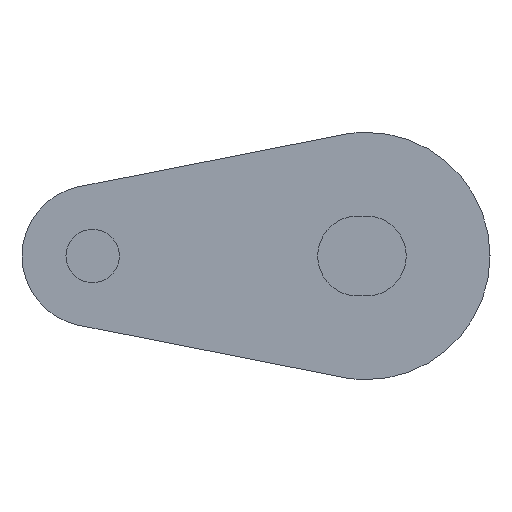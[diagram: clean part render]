
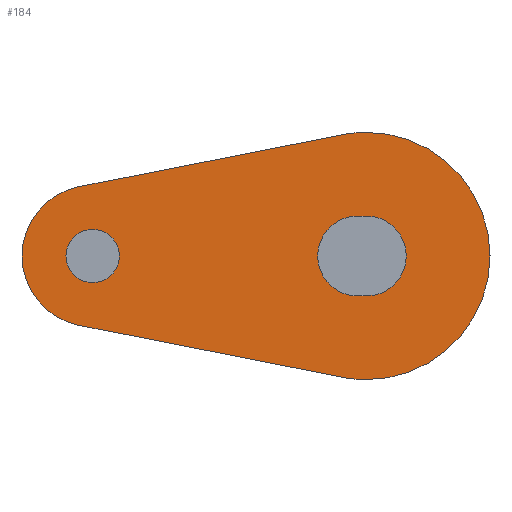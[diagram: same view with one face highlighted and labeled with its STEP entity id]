
A CAD part, left-side view. The second image highlights one B-rep face of the part: STEP entity #184.
In plain terms, the highlighted planar face has unit normal (-1, 0, 0).
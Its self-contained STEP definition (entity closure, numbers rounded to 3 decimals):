
#13 = AXIS2_PLACEMENT_3D ( 'NONE', #566, #562, #557 ) ;
#22 = AXIS2_PLACEMENT_3D ( 'NONE', #554, #544, #545 ) ;
#49 = AXIS2_PLACEMENT_3D ( 'NONE', #580, #578, #573 ) ;
#50 = AXIS2_PLACEMENT_3D ( 'NONE', #548, #537, #538 ) ;
#54 = AXIS2_PLACEMENT_3D ( 'NONE', #584, #585, #579 ) ;
#57 = EDGE_CURVE ( 'NONE', #435, #407, #257, .T. ) ;
#67 = AXIS2_PLACEMENT_3D ( 'NONE', #501, #454, #455 ) ;
#75 = EDGE_CURVE ( 'NONE', #436, #435, #243, .T. ) ;
#78 = EDGE_CURVE ( 'NONE', #446, #428, #237, .T. ) ;
#90 = EDGE_CURVE ( 'NONE', #423, #436, #224, .T. ) ;
#94 = AXIS2_PLACEMENT_3D ( 'NONE', #681, #680, #679 ) ;
#96 = EDGE_CURVE ( 'NONE', #407, #423, #227, .T. ) ;
#112 = EDGE_CURVE ( 'NONE', #420, #492, #951, .T. ) ;
#123 = EDGE_CURVE ( 'NONE', #492, #420, #995, .T. ) ;
#138 = AXIS2_PLACEMENT_3D ( 'NONE', #388, #430, #431 ) ;
#141 = EDGE_CURVE ( 'NONE', #387, #446, #969, .T. ) ;
#146 = EDGE_CURVE ( 'NONE', #447, #391, #968, .T. ) ;
#152 = EDGE_CURVE ( 'NONE', #424, #387, #1061, .T. ) ;
#155 = EDGE_CURVE ( 'NONE', #391, #424, #1060, .T. ) ;
#157 = EDGE_CURVE ( 'NONE', #428, #447, #1054, .T. ) ;
#162 = AXIS2_PLACEMENT_3D ( 'NONE', #466, #459, #460 ) ;
#184 = ADVANCED_FACE ( 'NONE', ( #1011, #1007, #1005 ), #685, .T. ) ;
#223 = VECTOR ( 'NONE', #526, 1000. ) ;
#224 = CIRCLE ( 'NONE', #162, 2.26 ) ;
#227 = LINE ( 'NONE', #525, #223 ) ;
#237 = CIRCLE ( 'NONE', #67, 7. ) ;
#243 = LINE ( 'NONE', #489, #248 ) ;
#248 = VECTOR ( 'NONE', #510, 1000. ) ;
#257 = CIRCLE ( 'NONE', #138, 2.26 ) ;
#304 = EDGE_LOOP ( 'NONE', ( #842, #897, #886, #888, #898, #891 ) ) ;
#305 = EDGE_LOOP ( 'NONE', ( #894, #893 ) ) ;
#306 = EDGE_LOOP ( 'NONE', ( #943, #941, #939, #895 ) ) ;
#387 = VERTEX_POINT ( 'NONE', #751 ) ;
#388 = CARTESIAN_POINT ( 'NONE',  ( -304.5, 0.5, 0. ) ) ;
#391 = VERTEX_POINT ( 'NONE', #820 ) ;
#407 = VERTEX_POINT ( 'NONE', #805 ) ;
#420 = VERTEX_POINT ( 'NONE', #811 ) ;
#423 = VERTEX_POINT ( 'NONE', #798 ) ;
#424 = VERTEX_POINT ( 'NONE', #799 ) ;
#428 = VERTEX_POINT ( 'NONE', #803 ) ;
#430 = DIRECTION ( 'NONE',  ( 1., 0., 0. ) ) ;
#431 = DIRECTION ( 'NONE',  ( 0., 0., -1. ) ) ;
#435 = VERTEX_POINT ( 'NONE', #796 ) ;
#436 = VERTEX_POINT ( 'NONE', #797 ) ;
#446 = VERTEX_POINT ( 'NONE', #791 ) ;
#447 = VERTEX_POINT ( 'NONE', #792 ) ;
#454 = DIRECTION ( 'NONE',  ( 1., 0., 0. ) ) ;
#455 = DIRECTION ( 'NONE',  ( 0., 0., -1. ) ) ;
#459 = DIRECTION ( 'NONE',  ( 1., 0., 0. ) ) ;
#460 = DIRECTION ( 'NONE',  ( 0., 0., -1. ) ) ;
#466 = CARTESIAN_POINT ( 'NONE',  ( -304.5, 0., 0. ) ) ;
#489 = CARTESIAN_POINT ( 'NONE',  ( -304.5, 0.5, -2.26 ) ) ;
#492 = VERTEX_POINT ( 'NONE', #785 ) ;
#501 = CARTESIAN_POINT ( 'NONE',  ( -304.5, 0., 0. ) ) ;
#510 = DIRECTION ( 'NONE',  ( 0., 1., 0. ) ) ;
#525 = CARTESIAN_POINT ( 'NONE',  ( -304.5, 0.5, 2.26 ) ) ;
#526 = DIRECTION ( 'NONE',  ( 0., -1., 0. ) ) ;
#537 = DIRECTION ( 'NONE',  ( 1., 0., 0. ) ) ;
#538 = DIRECTION ( 'NONE',  ( 0., 0., -1. ) ) ;
#541 = CARTESIAN_POINT ( 'NONE',  ( -304.5, 1.355, -6.868 ) ) ;
#542 = DIRECTION ( 'NONE',  ( 0., 0.981, 0.194 ) ) ;
#544 = DIRECTION ( 'NONE',  ( 1., 0., 0. ) ) ;
#545 = DIRECTION ( 'NONE',  ( 0., 0., -1. ) ) ;
#548 = CARTESIAN_POINT ( 'NONE',  ( -304.5, 0., 0. ) ) ;
#554 = CARTESIAN_POINT ( 'NONE',  ( -304.5, 15.5, 0. ) ) ;
#557 = DIRECTION ( 'NONE',  ( 0., 0., -1. ) ) ;
#562 = DIRECTION ( 'NONE',  ( 1., 0., 0. ) ) ;
#563 = DIRECTION ( 'NONE',  ( 0., -0.981, 0.194 ) ) ;
#566 = CARTESIAN_POINT ( 'NONE',  ( -304.5, 0., 0. ) ) ;
#572 = CARTESIAN_POINT ( 'NONE',  ( -304.5, 16.274, 3.924 ) ) ;
#573 = DIRECTION ( 'NONE',  ( 0., 0., -1. ) ) ;
#578 = DIRECTION ( 'NONE',  ( 1., 0., 0. ) ) ;
#579 = DIRECTION ( 'NONE',  ( 0., 0., -1. ) ) ;
#580 = CARTESIAN_POINT ( 'NONE',  ( -304.5, 15.5, 0. ) ) ;
#584 = CARTESIAN_POINT ( 'NONE',  ( -304.5, 15.5, 0. ) ) ;
#585 = DIRECTION ( 'NONE',  ( 1., 0., 0. ) ) ;
#679 = DIRECTION ( 'NONE',  ( 0., 0., -1. ) ) ;
#680 = DIRECTION ( 'NONE',  ( -1., 0., 0. ) ) ;
#681 = CARTESIAN_POINT ( 'NONE',  ( -304.5, 15.5, 0. ) ) ;
#685 = PLANE ( 'NONE',  #94 ) ;
#751 = CARTESIAN_POINT ( 'NONE',  ( -304.5, 16.274, 3.924 ) ) ;
#785 = CARTESIAN_POINT ( 'NONE',  ( -304.5, 15.5, 1.51 ) ) ;
#791 = CARTESIAN_POINT ( 'NONE',  ( -304.5, 1.355, 6.868 ) ) ;
#792 = CARTESIAN_POINT ( 'NONE',  ( -304.5, 0., -7. ) ) ;
#796 = CARTESIAN_POINT ( 'NONE',  ( -304.5, 0.5, -2.26 ) ) ;
#797 = CARTESIAN_POINT ( 'NONE',  ( -304.5, 0., -2.26 ) ) ;
#798 = CARTESIAN_POINT ( 'NONE',  ( -304.5, 0., 2.26 ) ) ;
#799 = CARTESIAN_POINT ( 'NONE',  ( -304.5, 16.274, -3.924 ) ) ;
#803 = CARTESIAN_POINT ( 'NONE',  ( -304.5, 0., 7. ) ) ;
#805 = CARTESIAN_POINT ( 'NONE',  ( -304.5, 0.5, 2.26 ) ) ;
#811 = CARTESIAN_POINT ( 'NONE',  ( -304.5, 15.5, -1.51 ) ) ;
#820 = CARTESIAN_POINT ( 'NONE',  ( -304.5, 1.355, -6.868 ) ) ;
#842 = ORIENTED_EDGE ( 'NONE', *, *, #152, .F. ) ;
#886 = ORIENTED_EDGE ( 'NONE', *, *, #146, .F. ) ;
#888 = ORIENTED_EDGE ( 'NONE', *, *, #157, .F. ) ;
#891 = ORIENTED_EDGE ( 'NONE', *, *, #141, .F. ) ;
#893 = ORIENTED_EDGE ( 'NONE', *, *, #123, .T. ) ;
#894 = ORIENTED_EDGE ( 'NONE', *, *, #112, .T. ) ;
#895 = ORIENTED_EDGE ( 'NONE', *, *, #75, .T. ) ;
#897 = ORIENTED_EDGE ( 'NONE', *, *, #155, .F. ) ;
#898 = ORIENTED_EDGE ( 'NONE', *, *, #78, .F. ) ;
#939 = ORIENTED_EDGE ( 'NONE', *, *, #90, .T. ) ;
#941 = ORIENTED_EDGE ( 'NONE', *, *, #96, .T. ) ;
#943 = ORIENTED_EDGE ( 'NONE', *, *, #57, .T. ) ;
#951 = CIRCLE ( 'NONE', #54, 1.51 ) ;
#968 = CIRCLE ( 'NONE', #13, 7. ) ;
#969 = LINE ( 'NONE', #572, #979 ) ;
#979 = VECTOR ( 'NONE', #563, 1000. ) ;
#995 = CIRCLE ( 'NONE', #49, 1.51 ) ;
#1005 = FACE_OUTER_BOUND ( 'NONE', #304, .T. ) ;
#1007 = FACE_BOUND ( 'NONE', #305, .T. ) ;
#1011 = FACE_BOUND ( 'NONE', #306, .T. ) ;
#1054 = CIRCLE ( 'NONE', #50, 7. ) ;
#1058 = VECTOR ( 'NONE', #542, 1000. ) ;
#1060 = LINE ( 'NONE', #541, #1058 ) ;
#1061 = CIRCLE ( 'NONE', #22, 4. ) ;
